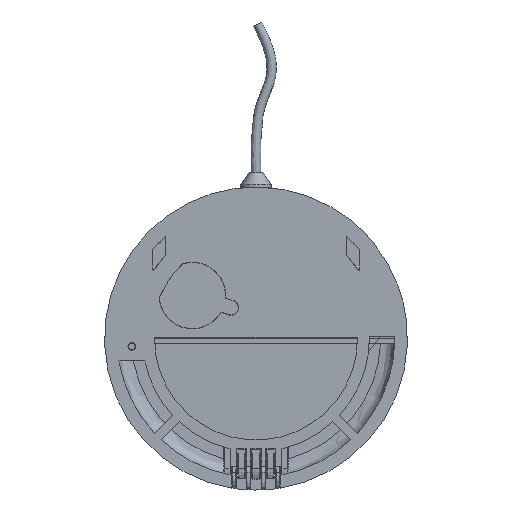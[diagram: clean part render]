
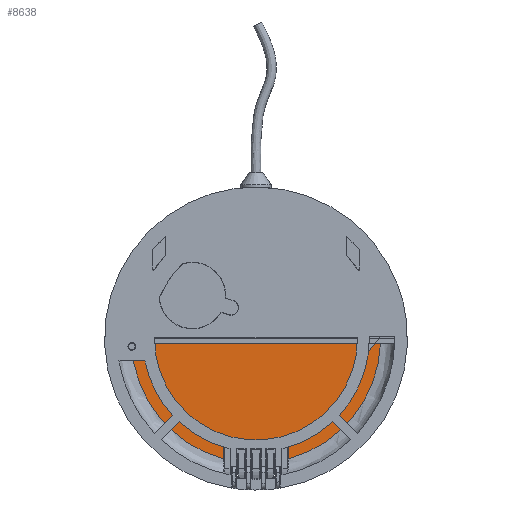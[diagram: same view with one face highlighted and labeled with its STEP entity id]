
A CAD part, front view. The second image highlights one B-rep face of the part: STEP entity #8638.
In plain terms, the highlighted planar face has unit normal (0, -1, 0).
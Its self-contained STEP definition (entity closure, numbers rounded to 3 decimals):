
#909 = CARTESIAN_POINT ( 'NONE',  ( 0., 20.1, 0. ) ) ;
#947 = DIRECTION ( 'NONE',  ( 0., 0., 1. ) ) ;
#1027 = CARTESIAN_POINT ( 'NONE',  ( -41.087, 20.1, -1.775 ) ) ;
#1098 = VECTOR ( 'NONE', #3126, 1000. ) ;
#1429 = DIRECTION ( 'NONE',  ( 0., 0., -1. ) ) ;
#1569 = CARTESIAN_POINT ( 'NONE',  ( -10.675, 20.1, -35.825 ) ) ;
#1678 = FACE_OUTER_BOUND ( 'NONE', #10077, .T. ) ;
#1904 = EDGE_CURVE ( 'NONE', #8257, #6021, #5097, .T. ) ;
#1988 = VECTOR ( 'NONE', #7551, 1000. ) ;
#2595 = ORIENTED_EDGE ( 'NONE', *, *, #9864, .F. ) ;
#2746 = LINE ( 'NONE', #9195, #1988 ) ;
#2777 = CARTESIAN_POINT ( 'NONE',  ( -10.5, 20.1, -35.825 ) ) ;
#2883 = VERTEX_POINT ( 'NONE', #10537 ) ;
#2894 = CARTESIAN_POINT ( 'NONE',  ( 10.675, 20.1, -36. ) ) ;
#2982 = AXIS2_PLACEMENT_3D ( 'NONE', #6709, #9920, #947 ) ;
#2996 = EDGE_CURVE ( 'NONE', #5677, #10221, #7354, .T. ) ;
#3097 = ORIENTED_EDGE ( 'NONE', *, *, #1904, .T. ) ;
#3126 = DIRECTION ( 'NONE',  ( -1., 0., 0. ) ) ;
#3214 = ORIENTED_EDGE ( 'NONE', *, *, #8633, .T. ) ;
#3295 = ORIENTED_EDGE ( 'NONE', *, *, #3964, .T. ) ;
#3604 = AXIS2_PLACEMENT_3D ( 'NONE', #4048, #4010, #1429 ) ;
#3619 = DIRECTION ( 'NONE',  ( -1., 0., 0. ) ) ;
#3964 = EDGE_CURVE ( 'NONE', #2883, #8257, #6576, .T. ) ;
#4010 = DIRECTION ( 'NONE',  ( 0., -1., 0. ) ) ;
#4048 = CARTESIAN_POINT ( 'NONE',  ( 0., 20.1, 0. ) ) ;
#4219 = DIRECTION ( 'NONE',  ( 0., -1., 0. ) ) ;
#4666 = VECTOR ( 'NONE', #10223, 1000. ) ;
#4944 = CARTESIAN_POINT ( 'NONE',  ( 10.675, 20.1, -35.825 ) ) ;
#5097 = CIRCLE ( 'NONE', #3604, 41.125 ) ;
#5677 = VERTEX_POINT ( 'NONE', #7919 ) ;
#5824 = PLANE ( 'NONE',  #2982 ) ;
#5840 = ORIENTED_EDGE ( 'NONE', *, *, #2996, .F. ) ;
#6021 = VERTEX_POINT ( 'NONE', #7553 ) ;
#6576 = LINE ( 'NONE', #8077, #1098 ) ;
#6604 = DIRECTION ( 'NONE',  ( 0., 0., -1. ) ) ;
#6709 = CARTESIAN_POINT ( 'NONE',  ( 0., 20.1, 0. ) ) ;
#6773 = LINE ( 'NONE', #2777, #9701 ) ;
#7067 = VERTEX_POINT ( 'NONE', #1569 ) ;
#7354 = LINE ( 'NONE', #2894, #4666 ) ;
#7551 = DIRECTION ( 'NONE',  ( 0., 0., -1. ) ) ;
#7553 = CARTESIAN_POINT ( 'NONE',  ( -10.675, 20.1, -39.715 ) ) ;
#7919 = CARTESIAN_POINT ( 'NONE',  ( 10.675, 20.1, -39.715 ) ) ;
#8077 = CARTESIAN_POINT ( 'NONE',  ( 0., 20.1, -1.775 ) ) ;
#8257 = VERTEX_POINT ( 'NONE', #1027 ) ;
#8319 = CIRCLE ( 'NONE', #8326, 41.125 ) ;
#8326 = AXIS2_PLACEMENT_3D ( 'NONE', #909, #4219, #6604 ) ;
#8633 = EDGE_CURVE ( 'NONE', #5677, #2883, #8319, .T. ) ;
#8638 = ADVANCED_FACE ( 'NONE', ( #1678 ), #5824, .F. ) ;
#8812 = EDGE_CURVE ( 'NONE', #10221, #7067, #6773, .T. ) ;
#9167 = ORIENTED_EDGE ( 'NONE', *, *, #8812, .F. ) ;
#9195 = CARTESIAN_POINT ( 'NONE',  ( -10.675, 20.1, -45.932 ) ) ;
#9701 = VECTOR ( 'NONE', #3619, 1000. ) ;
#9864 = EDGE_CURVE ( 'NONE', #7067, #6021, #2746, .T. ) ;
#9920 = DIRECTION ( 'NONE',  ( 0., 1., 0. ) ) ;
#10077 = EDGE_LOOP ( 'NONE', ( #3214, #3295, #3097, #2595, #9167, #5840 ) ) ;
#10221 = VERTEX_POINT ( 'NONE', #4944 ) ;
#10223 = DIRECTION ( 'NONE',  ( 0., 0., 1. ) ) ;
#10537 = CARTESIAN_POINT ( 'NONE',  ( 41.087, 20.1, -1.775 ) ) ;
